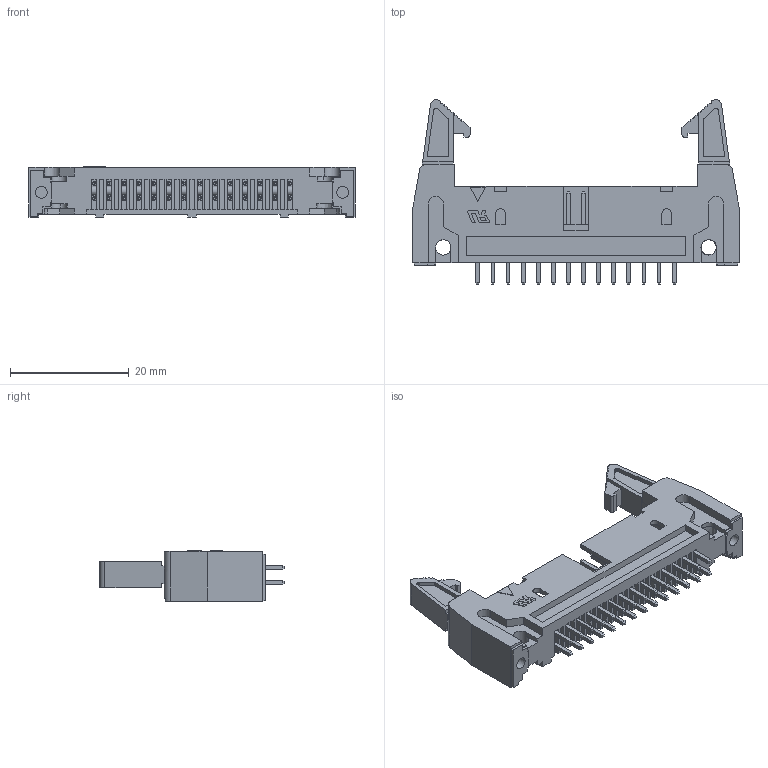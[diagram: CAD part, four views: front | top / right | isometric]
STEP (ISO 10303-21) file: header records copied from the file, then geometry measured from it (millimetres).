
FILE_DESCRIPTION(/* description */ (''),/* implementation_level */ '2;1');
FILE_NAME(/* name */ '_model2.stp',/* time_stamp */ '2024-11-18T11:43:21+08:00',/* author */ (''),/* organization */ (''),/* preprocessor_version */ 'ST-DEVELOPER v15',/* originating_system */ 'SIEMENS PLM Software NX 8.5',/* authorisation */ '');
FILE_SCHEMA (('AUTOMOTIVE_DESIGN { 1 0 10303 214 3 1 1 1 }'));
Length unit declared in the file: millimetre
Products named in the file (1): admi439865514hgj
Bounding box: 54.88 x 31.06 x 8.5 mm (x, y, z)
Volume: 3993.8 mm3; surface area: 5894.9 mm2
Topology: 29 solids, 29 shells, 963 faces, 2467 edges, 1568 vertices
Faces by surface type: plane 930, cylinder 30, extrusion 3
Full cylindrical faces by diameter (mm): 2 x2, 2.599 x1
Entity records: 28558 total; most frequent: CARTESIAN_POINT 5262, ORIENTED_EDGE 4920, DIRECTION 4375, EDGE_CURVE 2460, VECTOR 2297, LINE 2294, VERTEX_POINT 1565, AXIS2_PLACEMENT_3D 1039
